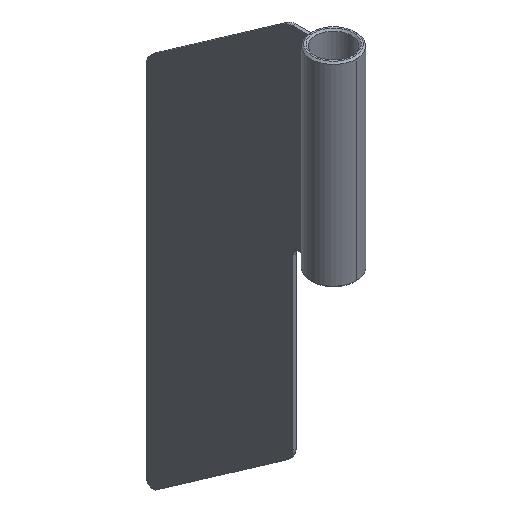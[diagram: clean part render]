
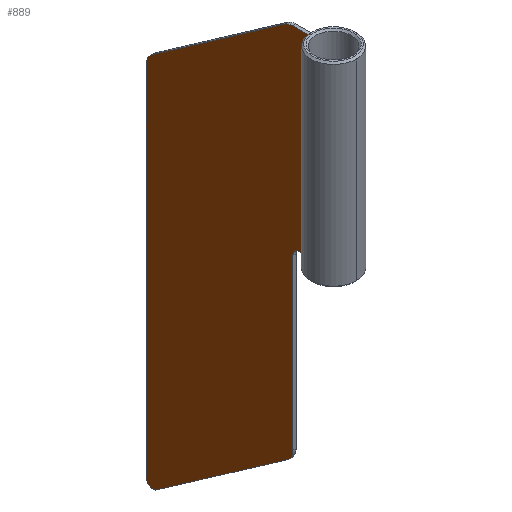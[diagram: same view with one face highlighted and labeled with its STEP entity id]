
A CAD part, isometric view. The second image highlights one B-rep face of the part: STEP entity #889.
In plain terms, the highlighted planar face has unit normal (-1, 0, 0).
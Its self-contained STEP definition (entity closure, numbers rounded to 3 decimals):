
#26=PLANE('',#974);
#72=FACE_OUTER_BOUND('',#119,.T.);
#119=EDGE_LOOP('',(#665,#666,#667,#668,#669,#670,#671,#672,#673,#674,#675,
#676,#677,#678,#679,#680,#681,#682,#683,#684));
#163=CIRCLE('',#953,2.);
#165=CIRCLE('',#957,2.);
#169=CIRCLE('',#964,4.);
#170=CIRCLE('',#967,4.);
#171=CIRCLE('',#970,4.);
#212=LINE('',#1355,#291);
#217=LINE('',#1370,#296);
#234=LINE('',#1411,#313);
#236=LINE('',#1417,#315);
#238=LINE('',#1423,#317);
#239=LINE('',#1426,#318);
#243=LINE('',#1432,#322);
#245=LINE('',#1436,#324);
#247=LINE('',#1439,#326);
#250=LINE('',#1444,#329);
#251=LINE('',#1446,#330);
#252=LINE('',#1448,#331);
#253=LINE('',#1449,#332);
#254=LINE('',#1451,#333);
#255=LINE('',#1452,#334);
#291=VECTOR('',#1072,10.);
#296=VECTOR('',#1085,10.);
#313=VECTOR('',#1116,10.);
#315=VECTOR('',#1124,10.);
#317=VECTOR('',#1132,10.);
#318=VECTOR('',#1135,10.);
#322=VECTOR('',#1141,10.);
#324=VECTOR('',#1143,10.);
#326=VECTOR('',#1145,10.);
#329=VECTOR('',#1150,10.);
#330=VECTOR('',#1151,10.);
#331=VECTOR('',#1152,10.);
#332=VECTOR('',#1153,10.);
#333=VECTOR('',#1154,10.);
#334=VECTOR('',#1155,10.);
#379=VERTEX_POINT('',#1345);
#380=VERTEX_POINT('',#1347);
#382=VERTEX_POINT('',#1353);
#385=VERTEX_POINT('',#1360);
#386=VERTEX_POINT('',#1362);
#388=VERTEX_POINT('',#1368);
#403=VERTEX_POINT('',#1403);
#404=VERTEX_POINT('',#1404);
#405=VERTEX_POINT('',#1409);
#406=VERTEX_POINT('',#1413);
#407=VERTEX_POINT('',#1419);
#408=VERTEX_POINT('',#1425);
#409=VERTEX_POINT('',#1431);
#410=VERTEX_POINT('',#1433);
#411=VERTEX_POINT('',#1435);
#412=VERTEX_POINT('',#1437);
#413=VERTEX_POINT('',#1443);
#414=VERTEX_POINT('',#1445);
#415=VERTEX_POINT('',#1447);
#416=VERTEX_POINT('',#1450);
#460=EDGE_CURVE('',#379,#380,#163,.T.);
#464=EDGE_CURVE('',#379,#382,#212,.T.);
#467=EDGE_CURVE('',#385,#386,#165,.T.);
#471=EDGE_CURVE('',#385,#388,#217,.T.);
#488=EDGE_CURVE('',#403,#404,#169,.T.);
#492=EDGE_CURVE('',#403,#405,#234,.T.);
#493=EDGE_CURVE('',#406,#388,#170,.T.);
#495=EDGE_CURVE('',#406,#380,#236,.T.);
#496=EDGE_CURVE('',#407,#405,#171,.T.);
#498=EDGE_CURVE('',#407,#386,#238,.T.);
#499=EDGE_CURVE('',#408,#404,#239,.T.);
#503=EDGE_CURVE('',#409,#408,#243,.T.);
#505=EDGE_CURVE('',#411,#410,#245,.T.);
#507=EDGE_CURVE('',#382,#412,#247,.T.);
#510=EDGE_CURVE('',#413,#411,#250,.T.);
#511=EDGE_CURVE('',#410,#414,#251,.T.);
#512=EDGE_CURVE('',#414,#415,#252,.T.);
#513=EDGE_CURVE('',#415,#409,#253,.T.);
#514=EDGE_CURVE('',#412,#416,#254,.T.);
#515=EDGE_CURVE('',#416,#413,#255,.T.);
#665=ORIENTED_EDGE('',*,*,#510,.T.);
#666=ORIENTED_EDGE('',*,*,#505,.T.);
#667=ORIENTED_EDGE('',*,*,#511,.T.);
#668=ORIENTED_EDGE('',*,*,#512,.T.);
#669=ORIENTED_EDGE('',*,*,#513,.T.);
#670=ORIENTED_EDGE('',*,*,#503,.T.);
#671=ORIENTED_EDGE('',*,*,#499,.T.);
#672=ORIENTED_EDGE('',*,*,#488,.F.);
#673=ORIENTED_EDGE('',*,*,#492,.T.);
#674=ORIENTED_EDGE('',*,*,#496,.F.);
#675=ORIENTED_EDGE('',*,*,#498,.T.);
#676=ORIENTED_EDGE('',*,*,#467,.F.);
#677=ORIENTED_EDGE('',*,*,#471,.T.);
#678=ORIENTED_EDGE('',*,*,#493,.F.);
#679=ORIENTED_EDGE('',*,*,#495,.T.);
#680=ORIENTED_EDGE('',*,*,#460,.F.);
#681=ORIENTED_EDGE('',*,*,#464,.T.);
#682=ORIENTED_EDGE('',*,*,#507,.T.);
#683=ORIENTED_EDGE('',*,*,#514,.T.);
#684=ORIENTED_EDGE('',*,*,#515,.T.);
#889=ADVANCED_FACE('',(#72),#26,.T.);
#953=AXIS2_PLACEMENT_3D('',#1348,#1065,#1066);
#957=AXIS2_PLACEMENT_3D('',#1363,#1078,#1079);
#964=AXIS2_PLACEMENT_3D('',#1405,#1109,#1110);
#967=AXIS2_PLACEMENT_3D('',#1414,#1119,#1120);
#970=AXIS2_PLACEMENT_3D('',#1420,#1127,#1128);
#974=AXIS2_PLACEMENT_3D('',#1442,#1148,#1149);
#1065=DIRECTION('center_axis',(-1.,0.,0.));
#1066=DIRECTION('ref_axis',(0.,0.707,0.707));
#1072=DIRECTION('',(0.,-1.,0.));
#1078=DIRECTION('center_axis',(1.,0.,0.));
#1079=DIRECTION('ref_axis',(0.,0.462,-0.887));
#1085=DIRECTION('',(0.,-0.819,0.574));
#1109=DIRECTION('center_axis',(1.,0.,0.));
#1110=DIRECTION('ref_axis',(0.,0.301,0.954));
#1116=DIRECTION('',(0.,0.819,-0.574));
#1119=DIRECTION('center_axis',(1.,0.,0.));
#1120=DIRECTION('ref_axis',(0.,-0.887,-0.462));
#1124=DIRECTION('',(0.,0.,1.));
#1127=DIRECTION('center_axis',(1.,0.,0.));
#1128=DIRECTION('ref_axis',(0.,0.887,0.462));
#1132=DIRECTION('',(0.,0.,-1.));
#1135=DIRECTION('',(0.,1.,0.));
#1141=DIRECTION('',(0.,0.,1.));
#1143=DIRECTION('',(0.,0.,1.));
#1145=DIRECTION('',(0.,0.,1.));
#1148=DIRECTION('center_axis',(-1.,0.,0.));
#1149=DIRECTION('ref_axis',(0.,0.,1.));
#1150=DIRECTION('',(0.,-1.,0.));
#1151=DIRECTION('',(0.,1.,0.));
#1152=DIRECTION('',(0.,0.,1.));
#1153=DIRECTION('',(0.,-1.,0.));
#1154=DIRECTION('',(0.,1.,0.));
#1155=DIRECTION('',(0.,0.,1.));
#1345=CARTESIAN_POINT('',(-0.5,10.,-45.));
#1347=CARTESIAN_POINT('',(-0.5,12.,-47.));
#1348=CARTESIAN_POINT('Origin',(-0.5,10.,-47.));
#1353=CARTESIAN_POINT('',(-0.5,7.,-45.));
#1355=CARTESIAN_POINT('',(-0.5,12.,-45.));
#1360=CARTESIAN_POINT('',(-0.5,53.853,-130.306));
#1362=CARTESIAN_POINT('',(-0.5,57.,-128.667));
#1363=CARTESIAN_POINT('Origin',(-0.5,55.,-128.667));
#1368=CARTESIAN_POINT('',(-0.5,13.706,-102.194));
#1370=CARTESIAN_POINT('',(-0.5,57.,-132.509));
#1403=CARTESIAN_POINT('',(-0.5,14.533,13.277));
#1404=CARTESIAN_POINT('',(-0.5,12.239,14.));
#1405=CARTESIAN_POINT('Origin',(-0.5,12.239,10.));
#1409=CARTESIAN_POINT('',(-0.5,55.294,-15.265));
#1411=CARTESIAN_POINT('',(-0.5,13.5,14.));
#1413=CARTESIAN_POINT('',(-0.5,12.,-98.918));
#1414=CARTESIAN_POINT('Origin',(-0.5,16.,-98.918));
#1417=CARTESIAN_POINT('',(-0.5,12.,-101.));
#1419=CARTESIAN_POINT('',(-0.5,57.,-18.541));
#1420=CARTESIAN_POINT('Origin',(-0.5,53.,-18.541));
#1423=CARTESIAN_POINT('',(-0.5,57.,-16.459));
#1425=CARTESIAN_POINT('',(-0.5,7.,14.));
#1426=CARTESIAN_POINT('',(-0.5,7.,14.));
#1431=CARTESIAN_POINT('',(-0.5,7.,4.));
#1432=CARTESIAN_POINT('',(-0.5,7.,-45.));
#1433=CARTESIAN_POINT('',(-0.5,7.,-11.));
#1435=CARTESIAN_POINT('',(-0.5,7.,-21.));
#1436=CARTESIAN_POINT('',(-0.5,7.,-45.));
#1437=CARTESIAN_POINT('',(-0.5,7.,-36.));
#1439=CARTESIAN_POINT('',(-0.5,7.,-45.));
#1442=CARTESIAN_POINT('Origin',(-0.5,32.,-59.255));
#1443=CARTESIAN_POINT('',(-0.5,7.689,-21.));
#1444=CARTESIAN_POINT('',(-0.5,19.491,-21.));
#1445=CARTESIAN_POINT('',(-0.5,7.689,-11.));
#1446=CARTESIAN_POINT('',(-0.5,19.491,-11.));
#1447=CARTESIAN_POINT('',(-0.5,7.689,4.));
#1448=CARTESIAN_POINT('',(-0.5,7.689,-11.));
#1449=CARTESIAN_POINT('',(-0.5,19.491,4.));
#1450=CARTESIAN_POINT('',(-0.5,7.689,-36.));
#1451=CARTESIAN_POINT('',(-0.5,19.491,-36.));
#1452=CARTESIAN_POINT('',(-0.5,7.689,-36.));
